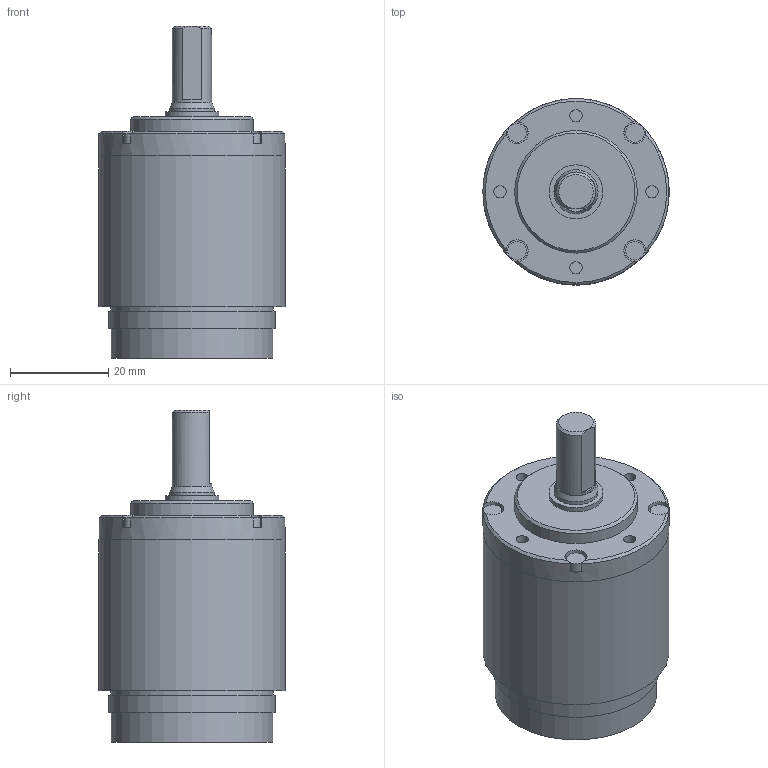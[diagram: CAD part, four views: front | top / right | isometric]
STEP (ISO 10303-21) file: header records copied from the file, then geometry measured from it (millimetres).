
FILE_DESCRIPTION(/* description */ (''),/* implementation_level */ '2;1');
FILE_NAME(/* name */ '38-2_4.stp',/* time_stamp */ '2016-09-16T10:41:56+02:00',/* author */ ('DR. FRITZ FAULHABER GmbH & Co. KG'),/* organization */ ('DR. FRITZ FAULHABER GmbH & Co. KG'),/* preprocessor_version */ 'ST-DEVELOPER v16',/* originating_system */ 'SIEMENS PLM Software NX 10.0',/* authorisation */ '');
FILE_SCHEMA (('AUTOMOTIVE_DESIGN { 1 0 10303 214 3 1 1 1 }'));
Length unit declared in the file: millimetre
Products named in the file (1): huge19E82220l2pb
Bounding box: 38 x 38 x 67.7 mm (x, y, z)
Volume: 51341.9 mm3; surface area: 8919.6 mm2
Topology: 1 solids, 1 shells, 62 faces, 118 edges, 79 vertices
Faces by surface type: plane 29, cylinder 26, cone 7
Full cylindrical faces by diameter (mm): 2.5 x4, 3.8 x4, 8 x1, 9 x1, 11 x1, 11.8 x1, 12 x1, 25 x1, 26.9 x1, 27.57 x1, 33 x1, 33.2 x1, 34 x1, 37.99 x1, 38 x2
Entity records: 1468 total; most frequent: DIRECTION 271, CARTESIAN_POINT 257, ORIENTED_EDGE 176, AXIS2_PLACEMENT_3D 130, EDGE_LOOP 107, EDGE_CURVE 88, FACE_BOUND 86, VERTEX_POINT 73
